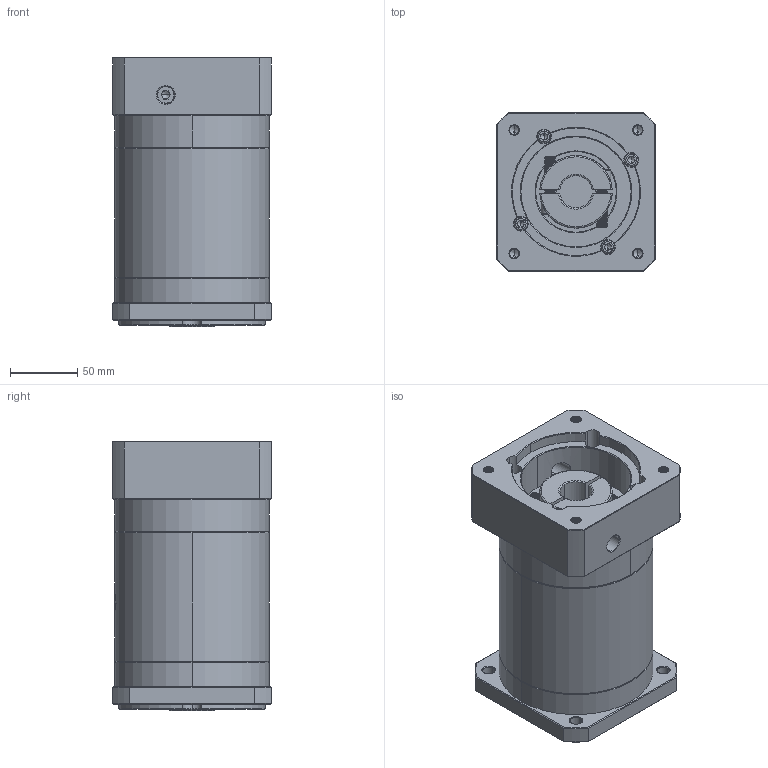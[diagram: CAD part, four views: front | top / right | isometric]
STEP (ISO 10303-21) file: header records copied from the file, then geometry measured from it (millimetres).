
FILE_DESCRIPTION (( 'STEP AP214' ), '1' );
FILE_NAME ('ZF120A-K25-L3-P2-24-95-130-M8.step', '2023-08-27T04:54:03', ( '' ), ( '' ), 'SwSTEP 2.0', 'SolidWorks 2016', '' );
FILE_SCHEMA (( 'AUTOMOTIVE_DESIGN' ));
Length unit declared in the file: millimetre
Products named in the file (1): ZF120A-K25-L3-P2-24-95-130-M8
Bounding box: 118 x 118 x 200.5 mm (x, y, z)
Volume: 2005064.4 mm3; surface area: 184597 mm2
Topology: 6 solids, 6 shells, 2169 faces, 5773 edges, 3705 vertices
Faces by surface type: plane 1027, bspline 410, cylinder 392, cone 320, torus 20
Entity records: 117706 total; most frequent: CARTESIAN_POINT 45062, ORIENTED_EDGE 11490, DIRECTION 8351, EDGE_CURVE 5745, VERTEX_POINT 3705, LINE 3045, VECTOR 3045, AXIS2_PLACEMENT_3D 2653
